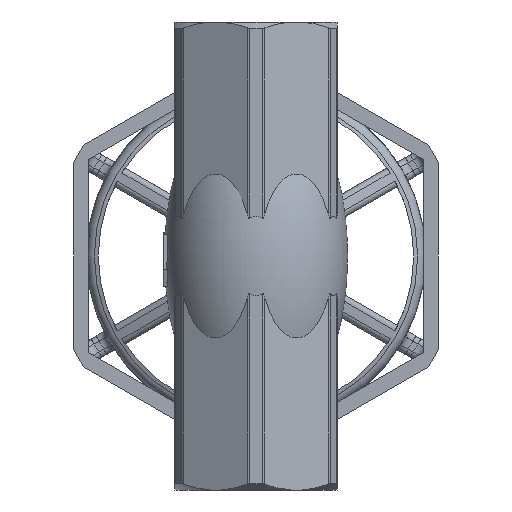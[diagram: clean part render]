
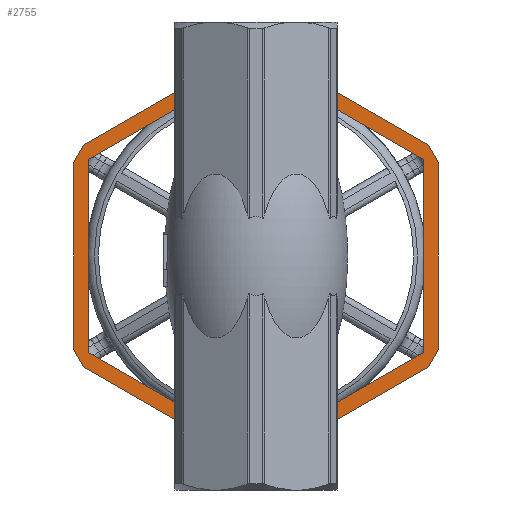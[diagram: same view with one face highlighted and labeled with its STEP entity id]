
A CAD part, front view. The second image highlights one B-rep face of the part: STEP entity #2755.
In plain terms, the highlighted planar face has unit normal (0, -1, 0).
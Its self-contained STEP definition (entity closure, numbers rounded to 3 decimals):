
#2755=ADVANCED_FACE('',(#10216,#10218),#10220,.T.);
#10216=FACE_BOUND('',#10217,.T.);
#10217=EDGE_LOOP('',(#12941,#12942,#12943,#12944,#12945,#12946,#12947,#12948,#12949,
#12950,#12951,#12952));
#10218=FACE_BOUND('',#10219,.T.);
#10219=EDGE_LOOP('',(#12953,#12954,#12955,#12956,#12957,#12958));
#10220=PLANE('',#10221);
#10221=AXIS2_PLACEMENT_3D('',#10222,#10223,#10224);
#10222=CARTESIAN_POINT('',(0.,116.25,-40.));
#10223=DIRECTION('',(0.,-1.,0.));
#10224=DIRECTION('',(0.,0.,-1.));
#12941=ORIENTED_EDGE('',*,*,#14440,.T.);
#12942=ORIENTED_EDGE('',*,*,#14389,.T.);
#12943=ORIENTED_EDGE('',*,*,#14441,.T.);
#12944=ORIENTED_EDGE('',*,*,#14366,.T.);
#12945=ORIENTED_EDGE('',*,*,#14442,.T.);
#12946=ORIENTED_EDGE('',*,*,#14355,.T.);
#12947=ORIENTED_EDGE('',*,*,#14443,.T.);
#12948=ORIENTED_EDGE('',*,*,#14332,.T.);
#12949=ORIENTED_EDGE('',*,*,#14439,.T.);
#12950=ORIENTED_EDGE('',*,*,#14417,.T.);
#12951=ORIENTED_EDGE('',*,*,#14444,.T.);
#12952=ORIENTED_EDGE('',*,*,#14400,.T.);
#12953=ORIENTED_EDGE('',*,*,#14445,.T.);
#12954=ORIENTED_EDGE('',*,*,#14446,.T.);
#12955=ORIENTED_EDGE('',*,*,#14447,.T.);
#12956=ORIENTED_EDGE('',*,*,#14448,.T.);
#12957=ORIENTED_EDGE('',*,*,#14449,.T.);
#12958=ORIENTED_EDGE('',*,*,#14450,.T.);
#14332=EDGE_CURVE('',#16255,#16253,#16256,.T.);
#14355=EDGE_CURVE('',#16291,#16289,#16292,.T.);
#14366=EDGE_CURVE('',#16309,#16307,#16310,.T.);
#14389=EDGE_CURVE('',#16345,#16343,#16346,.T.);
#14400=EDGE_CURVE('',#16363,#16361,#16364,.T.);
#14417=EDGE_CURVE('',#16390,#16388,#16391,.T.);
#14439=EDGE_CURVE('',#16253,#16390,#16421,.T.);
#14440=EDGE_CURVE('',#16361,#16345,#16422,.T.);
#14441=EDGE_CURVE('',#16343,#16309,#16423,.T.);
#14442=EDGE_CURVE('',#16307,#16291,#16424,.T.);
#14443=EDGE_CURVE('',#16289,#16255,#16425,.T.);
#14444=EDGE_CURVE('',#16388,#16363,#16426,.T.);
#14445=EDGE_CURVE('',#16427,#16428,#16429,.F.);
#14446=EDGE_CURVE('',#16428,#16430,#16431,.F.);
#14447=EDGE_CURVE('',#16430,#16432,#16433,.F.);
#14448=EDGE_CURVE('',#16432,#16434,#16435,.F.);
#14449=EDGE_CURVE('',#16434,#16436,#16437,.F.);
#14450=EDGE_CURVE('',#16436,#16427,#16438,.F.);
#16253=VERTEX_POINT('',#28976);
#16255=VERTEX_POINT('',#28980);
#16256=CIRCLE('',#28981,35.);
#16289=VERTEX_POINT('',#29175);
#16291=VERTEX_POINT('',#29179);
#16292=CIRCLE('',#29180,35.);
#16307=VERTEX_POINT('',#29256);
#16309=VERTEX_POINT('',#29260);
#16310=CIRCLE('',#29261,35.);
#16343=VERTEX_POINT('',#29455);
#16345=VERTEX_POINT('',#29459);
#16346=CIRCLE('',#29460,35.);
#16361=VERTEX_POINT('',#29536);
#16363=VERTEX_POINT('',#29540);
#16364=CIRCLE('',#29541,35.);
#16388=VERTEX_POINT('',#29676);
#16390=VERTEX_POINT('',#29680);
#16391=CIRCLE('',#29681,35.);
#16421=LINE('',#29805,#29806);
#16422=LINE('',#29808,#29809);
#16423=LINE('',#29811,#29812);
#16424=LINE('',#29814,#29815);
#16425=LINE('',#29817,#29818);
#16426=LINE('',#29820,#29821);
#16427=VERTEX_POINT('',#29823);
#16428=VERTEX_POINT('',#29824);
#16429=LINE('',#29825,#29826);
#16430=VERTEX_POINT('',#29828);
#16431=LINE('',#29829,#29830);
#16432=VERTEX_POINT('',#29832);
#16433=LINE('',#29833,#29834);
#16434=VERTEX_POINT('',#29836);
#16435=LINE('',#29837,#29838);
#16436=VERTEX_POINT('',#29840);
#16437=LINE('',#29841,#29842);
#16438=LINE('',#29844,#29845);
#28976=CARTESIAN_POINT('',(31.177,116.25,-55.906));
#28980=CARTESIAN_POINT('',(29.363,116.25,-59.047));
#28981=AXIS2_PLACEMENT_3D('',#28982,#28983,#28984);
#28982=CARTESIAN_POINT('',(0.,116.25,-40.));
#28983=DIRECTION('',(0.,-1.,0.));
#28984=DIRECTION('',(0.839,0.,-0.544));
#29175=CARTESIAN_POINT('',(1.813,116.25,-74.953));
#29179=CARTESIAN_POINT('',(-1.813,116.25,-74.953));
#29180=AXIS2_PLACEMENT_3D('',#29181,#29182,#29183);
#29181=CARTESIAN_POINT('',(0.,116.25,-40.));
#29182=DIRECTION('',(0.,-1.,0.));
#29183=DIRECTION('',(-0.052,0.,-0.999));
#29256=CARTESIAN_POINT('',(-29.363,116.25,-59.047));
#29260=CARTESIAN_POINT('',(-31.177,116.25,-55.906));
#29261=AXIS2_PLACEMENT_3D('',#29262,#29263,#29264);
#29262=CARTESIAN_POINT('',(0.,116.25,-40.));
#29263=DIRECTION('',(0.,-1.,0.));
#29264=DIRECTION('',(-0.891,0.,-0.454));
#29455=CARTESIAN_POINT('',(-31.177,116.25,-24.094));
#29459=CARTESIAN_POINT('',(-29.363,116.25,-20.953));
#29460=AXIS2_PLACEMENT_3D('',#29461,#29462,#29463);
#29461=CARTESIAN_POINT('',(0.,116.25,-40.));
#29462=DIRECTION('',(0.,-1.,0.));
#29463=DIRECTION('',(-0.839,0.,0.544));
#29536=CARTESIAN_POINT('',(-1.813,116.25,-5.047));
#29540=CARTESIAN_POINT('',(1.813,116.25,-5.047));
#29541=AXIS2_PLACEMENT_3D('',#29542,#29543,#29544);
#29542=CARTESIAN_POINT('',(0.,116.25,-40.));
#29543=DIRECTION('',(0.,-1.,0.));
#29544=DIRECTION('',(0.052,0.,0.999));
#29676=CARTESIAN_POINT('',(29.363,116.25,-20.953));
#29680=CARTESIAN_POINT('',(31.177,116.25,-24.094));
#29681=AXIS2_PLACEMENT_3D('',#29682,#29683,#29684);
#29682=CARTESIAN_POINT('',(0.,116.25,-40.));
#29683=DIRECTION('',(0.,-1.,0.));
#29684=DIRECTION('',(0.891,0.,0.454));
#29805=CARTESIAN_POINT('',(31.177,116.25,-55.906));
#29806=VECTOR('',#29807,1.);
#29807=DIRECTION('',(0.,0.,1.));
#29808=CARTESIAN_POINT('',(-1.813,116.25,-5.047));
#29809=VECTOR('',#29810,1.);
#29810=DIRECTION('',(-0.866,0.,-0.5));
#29811=CARTESIAN_POINT('',(-31.177,116.25,-24.094));
#29812=VECTOR('',#29813,1.);
#29813=DIRECTION('',(0.,0.,-1.));
#29814=CARTESIAN_POINT('',(-29.363,116.25,-59.047));
#29815=VECTOR('',#29816,1.);
#29816=DIRECTION('',(0.866,0.,-0.5));
#29817=CARTESIAN_POINT('',(1.813,116.25,-74.953));
#29818=VECTOR('',#29819,1.);
#29819=DIRECTION('',(0.866,0.,0.5));
#29820=CARTESIAN_POINT('',(29.363,116.25,-20.953));
#29821=VECTOR('',#29822,1.);
#29822=DIRECTION('',(-0.866,0.,0.5));
#29823=CARTESIAN_POINT('',(-28.579,116.25,-56.5));
#29824=CARTESIAN_POINT('',(-28.579,116.25,-23.5));
#29825=CARTESIAN_POINT('',(-28.579,116.25,-23.5));
#29826=VECTOR('',#29827,1.);
#29827=DIRECTION('',(0.,0.,-1.));
#29828=CARTESIAN_POINT('',(0.,116.25,-7.));
#29829=CARTESIAN_POINT('',(0.,116.25,-7.));
#29830=VECTOR('',#29831,1.);
#29831=DIRECTION('',(-0.866,0.,-0.5));
#29832=CARTESIAN_POINT('',(28.579,116.25,-23.5));
#29833=CARTESIAN_POINT('',(28.579,116.25,-23.5));
#29834=VECTOR('',#29835,1.);
#29835=DIRECTION('',(-0.866,0.,0.5));
#29836=CARTESIAN_POINT('',(28.579,116.25,-56.5));
#29837=CARTESIAN_POINT('',(28.579,116.25,-56.5));
#29838=VECTOR('',#29839,1.);
#29839=DIRECTION('',(0.,0.,1.));
#29840=CARTESIAN_POINT('',(0.,116.25,-73.));
#29841=CARTESIAN_POINT('',(0.,116.25,-73.));
#29842=VECTOR('',#29843,1.);
#29843=DIRECTION('',(0.866,0.,0.5));
#29844=CARTESIAN_POINT('',(-28.579,116.25,-56.5));
#29845=VECTOR('',#29846,1.);
#29846=DIRECTION('',(0.866,0.,-0.5));
